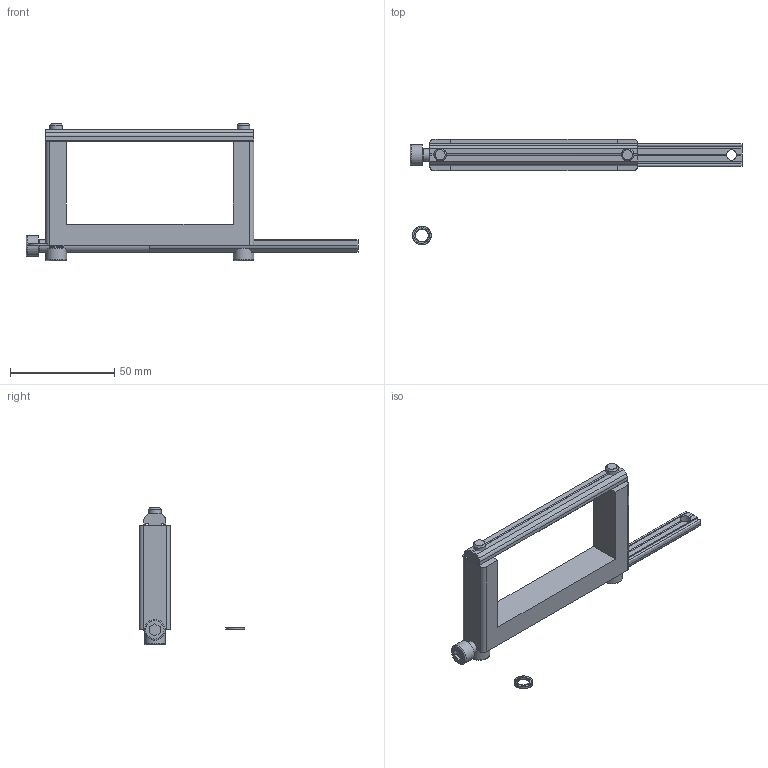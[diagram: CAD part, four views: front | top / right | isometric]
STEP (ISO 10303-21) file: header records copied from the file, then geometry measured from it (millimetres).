
FILE_DESCRIPTION( ( 'Unknown' ), '1' );
FILE_NAME( 'C:/Users/Fabrizio/Desktop/DISEGNI ACCESSORI FP SOLIDEDGE/CA.KBVJU.8040.stp', 'Unknown', ( 'Unknown' ), ( 'Unknown' ), 'PSStep 13.0', 'Unknown', ' ' );
FILE_SCHEMA( ( 'AUTOMOTIVE_DESIGN { 1 0 10303 214 1 1 1 1 }' ) );
Length unit declared in the file: millimetre
Products named in the file (5): Assem1; KBVJU.8040; R.6.SCH; V-tcei M  6 x 60; CA.GWP.6.90
Bounding box: 159.5 x 50.64 x 66 mm (x, y, z)
Volume: 65265.2 mm3; surface area: 33618.3 mm2
Topology: 7 solids, 10 shells, 713 faces, 2087 edges, 1383 vertices
Faces by surface type: plane 652, cylinder 52, torus 6, cone 3
Full cylindrical faces by diameter (mm): 4.917 x4, 6 x3, 6.2 x7, 9 x3, 10 x3
Entity records: 10159 total; most frequent: CARTESIAN_POINT 1538, DIRECTION 1467, ORIENTED_EDGE 1444, EDGE_CURVE 722, AXIS2_PLACEMENT_3D 494, VERTEX_POINT 485, LINE 479, VECTOR 479
